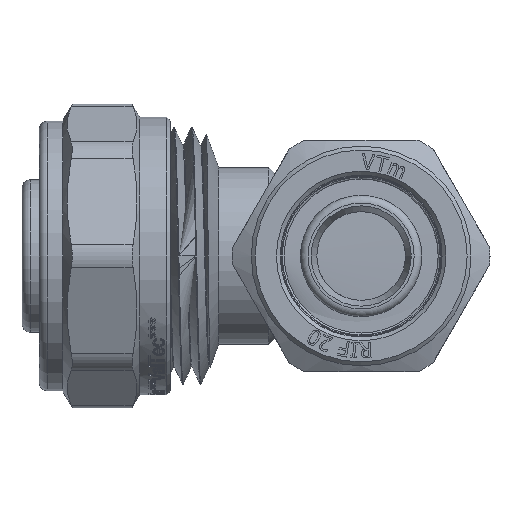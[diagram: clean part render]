
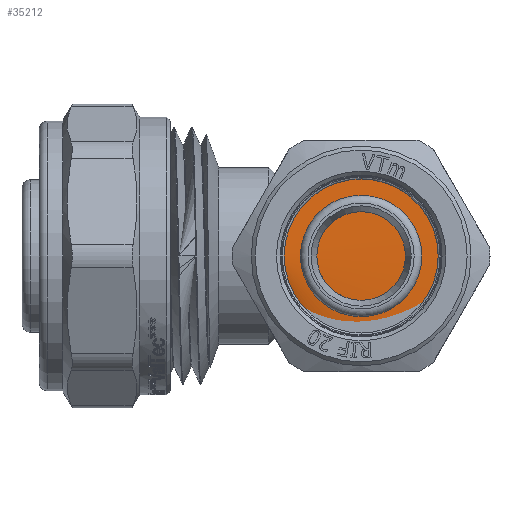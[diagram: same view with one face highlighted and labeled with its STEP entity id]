
A CAD part, left-side view. The second image highlights one B-rep face of the part: STEP entity #35212.
In plain terms, the highlighted cylindrical face has radius 11.5 mm (diameter 23 mm), a full revolution.
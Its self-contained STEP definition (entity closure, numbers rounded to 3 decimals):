
#2019=FACE_OUTER_BOUND('',#4025,.T.);
#4025=EDGE_LOOP('',(#23742,#23743,#23744));
#7090=B_SPLINE_CURVE_WITH_KNOTS('',3,(#45905,#45906,#45907,#45908,#45909,
#45910,#45911,#45912,#45913,#45914,#45915,#45916,#45917,#45918,#45919,#45920,
#45921),.UNSPECIFIED.,.F.,.F.,(4,1,1,1,1,1,1,1,1,1,1,1,1,1,4),(18.85,
19.175,19.665,20.154,20.643,21.133,
21.622,22.111,22.6,23.09,23.579,
24.068,24.557,25.047,25.133),
 .UNSPECIFIED.);
#9393=LINE('',#45086,#11782);
#9420=LINE('',#45904,#11809);
#11782=VECTOR('',#39032,11.5);
#11809=VECTOR('',#39137,11.5);
#14176=VERTEX_POINT('',#45084);
#14177=VERTEX_POINT('',#45085);
#14238=VERTEX_POINT('',#45903);
#17989=EDGE_CURVE('',#14176,#14177,#9393,.T.);
#18070=EDGE_CURVE('',#14238,#14177,#9420,.T.);
#18071=EDGE_CURVE('',#14238,#14176,#7090,.T.);
#23742=ORIENTED_EDGE('',*,*,#17989,.T.);
#23743=ORIENTED_EDGE('',*,*,#18070,.F.);
#23744=ORIENTED_EDGE('',*,*,#18071,.T.);
#34962=CYLINDRICAL_SURFACE('',#37259,11.5);
#35212=ADVANCED_FACE('',(#2019),#34962,.T.);
#37259=AXIS2_PLACEMENT_3D('',#45902,#39135,#39136);
#39032=DIRECTION('',(-1.,0.,0.));
#39135=DIRECTION('center_axis',(-1.,0.,0.));
#39136=DIRECTION('ref_axis',(0.,-1.,0.));
#39137=DIRECTION('',(1.,0.,0.));
#45084=CARTESIAN_POINT('',(-23.2,11.5,0.));
#45085=CARTESIAN_POINT('',(-24.9,11.5,0.));
#45086=CARTESIAN_POINT('',(-15.25,11.5,0.));
#45902=CARTESIAN_POINT('Origin',(-15.25,0.,0.));
#45903=CARTESIAN_POINT('',(-25.,11.5,0.));
#45904=CARTESIAN_POINT('',(-15.25,11.5,0.));
#45905=CARTESIAN_POINT('Ctrl Pts',(-25.,11.499,0.));
#45906=CARTESIAN_POINT('Ctrl Pts',(-24.969,11.499,1.249));
#45907=CARTESIAN_POINT('Ctrl Pts',(-24.891,10.991,4.375));
#45908=CARTESIAN_POINT('Ctrl Pts',(-24.766,8.208,8.711));
#45909=CARTESIAN_POINT('Ctrl Pts',(-24.626,3.151,11.547));
#45910=CARTESIAN_POINT('Ctrl Pts',(-24.486,-2.646,
11.673));
#45911=CARTESIAN_POINT('Ctrl Pts',(-24.346,-7.822,
9.06));
#45912=CARTESIAN_POINT('Ctrl Pts',(-24.206,-11.162,
4.321));
#45913=CARTESIAN_POINT('Ctrl Pts',(-24.066,-11.883,
-1.432));
#45914=CARTESIAN_POINT('Ctrl Pts',(-23.925,-9.816,
-6.849));
#45915=CARTESIAN_POINT('Ctrl Pts',(-23.785,-5.445,
-10.659));
#45916=CARTESIAN_POINT('Ctrl Pts',(-23.645,0.203,
-11.967));
#45917=CARTESIAN_POINT('Ctrl Pts',(-23.505,5.804,-10.468));
#45918=CARTESIAN_POINT('Ctrl Pts',(-23.365,10.043,-6.512));
#45919=CARTESIAN_POINT('Ctrl Pts',(-23.263,11.408,-2.535));
#45920=CARTESIAN_POINT('Ctrl Pts',(-23.208,11.501,-0.33));
#45921=CARTESIAN_POINT('Ctrl Pts',(-23.2,11.5,0.));
